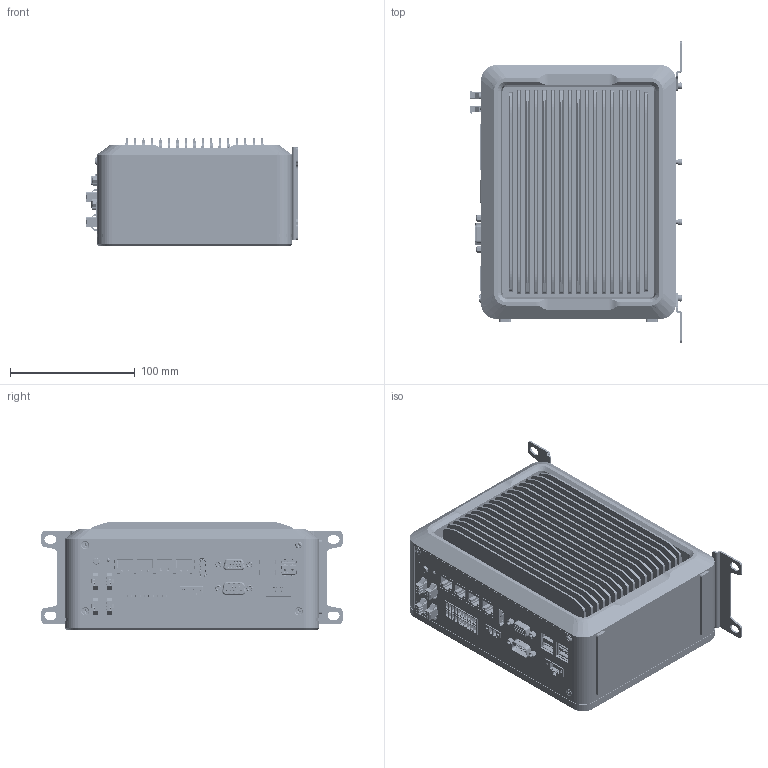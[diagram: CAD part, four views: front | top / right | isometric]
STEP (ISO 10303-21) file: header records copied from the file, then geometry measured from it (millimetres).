
FILE_DESCRIPTION((''),'2;1');
FILE_NAME('00-VC2000-TOP-ASSY_ASM_1_ASM','2023-12-19T21:48:37',('huguozhe'),(''),'CREO PARAMETRIC BY PTC INC, 2020044','CREO PARAMETRIC BY PTC INC, 2020044','');
FILE_SCHEMA(('AUTOMOTIVE_DESIGN { 1 0 10303 214 1 1 1 1 }'));
Products named in the file (45): DE-13-000889_1; DE-13-000789_ASM_1_ASM; DE-14-019995_1; DE-17-000326_1; DE-20-004981_ASM_1_ASM; 101400705_1; 100600943_1; 101301300_1; 101304772_1; 101301666_1; 101301626_1; 101305185_1_ASM; 101400636_1; 101305416_1_1; 101305416_1_2; 101305416_1_3; 101305416_1_4; 101305416_1_5; 101305416_1_ASM; MV20240_REV13_ASM_1_ASM; SM-3Y_1; 101301240-10PIN_1; 101301082_1; 101300561_1; MV-23373REV10_ASM_1_ASM; ELKHART_LAKE_4CORE_BARE_DIE_ASM_ASM; VB3000-ZHU-PCB-TOP-ASSY_ASM_1_ASM; DE-11-060626_1; DE-19-003054_1; DE-20-019509_ASM_1_ASM; DE-13-000847_1; DE-13-000846_ASM_1_ASM; DE-13-000849_1; DE-13-000848_ASM_1_ASM; DE-11-028241_1; 8002-CLS-M3-1_1; DE-11-028241_ASM_1_ASM; DE-20-005209_ASM_1_ASM; DE-11-027802_1; SC-TWM3X6PM-BNI_1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
Assembly tree (72 placements, depth 5):
  00-VC2000-TOP-ASSY_ASM_1_ASM
    DE-20-004981_ASM_1_ASM
      DE-13-000789_ASM_1_ASM
        DE-13-000889_1
      DE-14-019995_1  x2
      DE-17-000326_1  x2
    VB3000-ZHU-PCB-TOP-ASSY_ASM_1_ASM
      MV20240_REV13_ASM_1_ASM
        101400705_1
        100600943_1
        101301300_1
        101304772_1
        101301666_1
        101301626_1
        101305185_1_ASM
        101400636_1
        101305416_1_ASM
          101305416_1_1
          101305416_1_2
          101305416_1_3
          101305416_1_4
          101305416_1_5
      MV-23373REV10_ASM_1_ASM
        SM-3Y_1  x4
        101301240-10PIN_1
        101301082_1
        101300561_1
      ELKHART_LAKE_4CORE_BARE_DIE_ASM_ASM
    DE-20-019509_ASM_1_ASM
      DE-11-060626_1
      DE-19-003054_1
    DE-13-000846_ASM_1_ASM
      DE-13-000847_1
    DE-13-000848_ASM_1_ASM
      DE-13-000849_1
    DE-20-005209_ASM_1_ASM
      DE-11-028241_ASM_1_ASM
        DE-11-028241_1
        8002-CLS-M3-1_1  x4
    DE-11-027802_1  x2
    SC-TWM3X6PM-BNI_1
    SC-PSF0M3X6-NI_1  x2
    SC-KM3X5B-JMF_1  x9
    SC-PM3X6T10B_1  x4
    SC-PSF0M3X6-SUS_1  x8
Bounding box: 170.05 x 241 x 86 mm (x, y, z)
Volume: 1853176.1 mm3; surface area: 424624.4 mm2
Topology: 59 solids, 170 shells, 11584 faces, 31845 edges, 20621 vertices
Faces by surface type: plane 7383, cylinder 3019, cone 496, bspline 263, extrusion 175, torus 131, sphere 117
Entity records: 407374 total; most frequent: CARTESIAN_POINT 119257, ORIENTED_EDGE 54997, DIRECTION 50194, EDGE_CURVE 27640, VECTOR 19492, LINE 19335, VERTEX_POINT 18023, AXIS2_PLACEMENT_3D 15351
